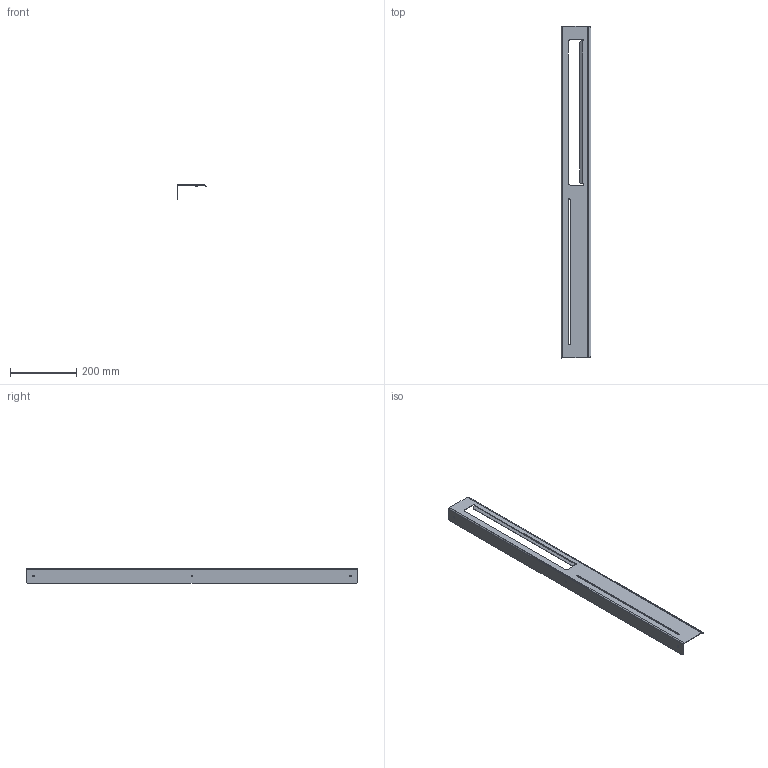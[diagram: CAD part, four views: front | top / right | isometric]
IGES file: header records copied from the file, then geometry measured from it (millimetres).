
Start section: IGES file generated by C3D Converter 1.5 translator by C3D Labs., translator version IGESOUT-5.1.
Global section: file name: D:\×åðòåæè èçäåëèé Âàííà 2023\Ïîëêè Simple Íîâûå\3D\S²MPLE_2_1000_P440_RIGHT_.igs; preprocessor: 1.0; author: a.kalenyk83@gmail.com; organization: unknown; date: -17770728:132810; units: millimetre
Bounding box: 88.5 x 1000 x 45 mm (x, y, z)
Volume: 173191.9 mm3; surface area: 237183.6 mm2
Topology: 1 solids, 1 shells, 54 faces, 132 edges, 80 vertices
Faces by surface type: bspline 30, revolution 24
